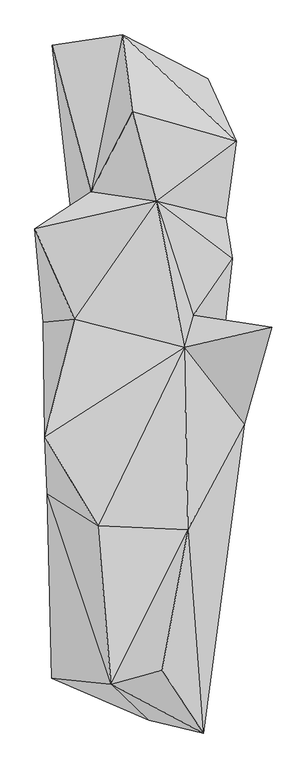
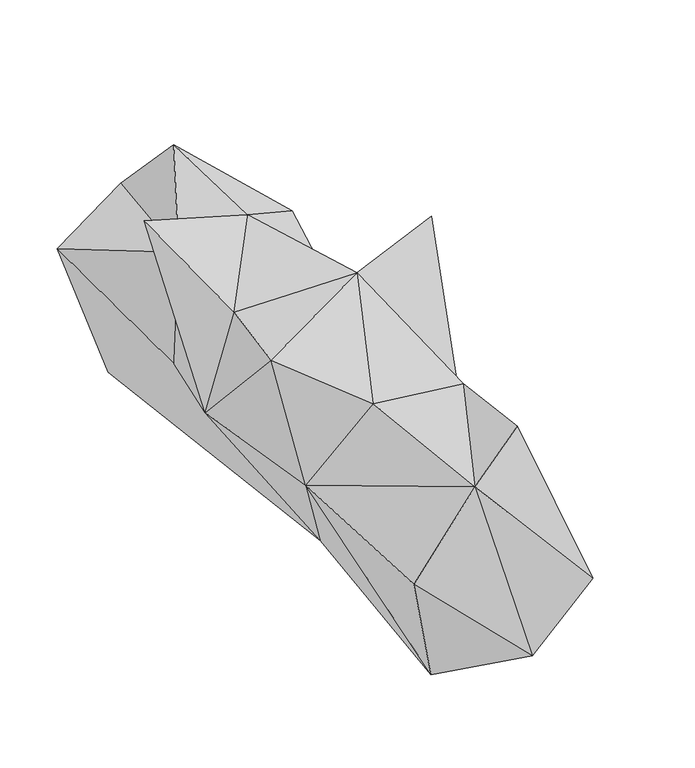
"""IFC4 building model written with IfcOpenShell, lengths in millimetres: geographic element geometry, Enscape AssetDefinition - Potted Plant 250 Snake Plant : Enscape AssetDefinition - Potted Plant 250 Snake Plant 2."""

from ifc_helpers import new_model, si_unit, origin, place, context, project, spatial, triangles, source, transform, mapped, element, save


def geographic_element_3a85a20d(model_context):
    return source(origin(), model_context, "Body", "Tessellation", [
        triangles([(-27.9038723, 1009.898604, 816.2750301), (-63.4035427, 1288.0513206, 509.8863553), (244.9387919, 1129.1114582, 105.0173726), (51.2258476, 989.1899843, 0.0), (-177.1290502, 721.0706669, 623.7830732), (310.2021775, 625.3913326, 428.5393948), (348.3613672, 904.5804686, 490.2870792), (255.2625804, 670.9154434, 149.7835899), (132.7872346, -129.5916629, 0.0), (59.6168144, 686.6371582, 708.3330723), (192.8924593, 276.5921651, 518.0762624), (333.5911569, 479.2321218, 423.9515571), (275.8312559, -41.3606885, 265.0875439), (476.1720978, 232.5109168, 832.3584961), (376.66876, -117.1920927, 383.0226963), (173.4182847, -498.5217147, 725.1656204), (228.1836555, -1232.6500511, 391.1307043), (253.6916007, -920.3274725, 0.0), (31.4523475, -1186.7522713, 129.8537381), (79.7476941, -1006.019553, 900.0000069), (-152.532441, -484.4916118, 753.9868263), (-319.7546468, -1034.681321, 440.3269747), (-105.2228651, -1055.7830853, 760.0027382), (-143.714093, -131.292195, 0.0), (-6.0858709, -899.0470854, 0.0), (-244.3550703, -1014.1648407, 48.0972868), (-335.3155429, -368.9568398, 429.2660583), (159.5579206, 160.4737078, 764.825845), (-344.2009017, -163.2299894, 796.5670761), (-237.2179333, 260.6575273, 689.8000465), (-350.2807631, 251.4460801, 342.183147), (-247.4538637, 629.2599192, 269.8168701), (-380.5939928, 587.9037226, 897.9271683), (-261.4750282, 1024.6166737, 0.0), (-318.3385268, 1251.4393112, 365.272835)], [[4, 9, 24], [34, 4, 24], [4, 34, 35], [35, 34, 32], [24, 32, 34], [5, 35, 32], [5, 33, 10], [28, 10, 30], [33, 30, 10], [31, 33, 5], [24, 31, 32], [31, 5, 32], [30, 33, 31], [29, 30, 31], [28, 30, 29], [28, 29, 21], [27, 21, 29], [27, 29, 31], [27, 31, 24], [27, 26, 22], [27, 24, 26], [24, 25, 26], [24, 9, 25], [22, 26, 19], [26, 25, 19], [21, 27, 23], [22, 19, 23], [27, 22, 23], [16, 23, 20], [28, 21, 16], [16, 21, 23], [17, 16, 20], [17, 23, 19], [20, 23, 17], [18, 25, 9], [19, 25, 18], [17, 19, 18], [18, 15, 17], [15, 28, 16], [15, 16, 17], [28, 15, 14], [9, 15, 18], [15, 9, 13], [15, 13, 11], [14, 15, 11], [10, 28, 11], [11, 28, 14], [12, 11, 13], [12, 13, 9], [12, 10, 11], [6, 10, 12], [4, 8, 9], [6, 12, 8], [8, 12, 9], [8, 4, 3], [7, 10, 6], [7, 6, 8], [8, 3, 7], [1, 10, 7], [5, 10, 1], [2, 7, 3], [4, 35, 2], [5, 2, 35], [5, 1, 2], [2, 3, 4], [2, 1, 7]]),
    ])


if __name__ == "__main__":
    model = new_model("IFC4")
    model_context = context("Model", 3, world=origin())
    ifc_project = project(units=[si_unit("LENGTHUNIT", "METRE", prefix="MILLI")], contexts=[model_context])
    site = spatial("IfcSite", under=ifc_project)
    building = spatial("IfcBuilding", under=site)
    placement = place(None, origin())
    geographic_element_shape = geographic_element_3a85a20d(model_context)
    element("IfcGeographicElement", 1, ObjectType="Enscape AssetDefinition - Potted Plant 250 Snake Plant : Enscape AssetDefinition - Potted Plant 250 Snake Plant 2", at=placement, inside=building, context=model_context, shape_type="MappedRepresentation", body=[
        mapped(geographic_element_shape, transform((0.0, 0.0, 0.0), x_axis=(1.0, 0.0, 0.0), y_axis=(0.0, 1.0, 0.0), z_axis=(0.0, 0.0, 1.0))),
    ])
    save(model, "model.ifc")
